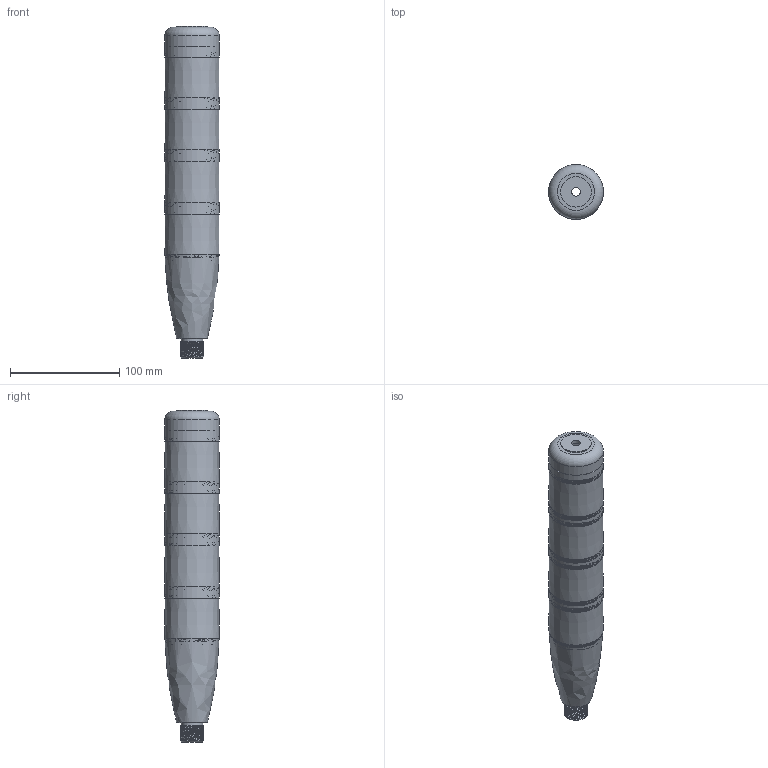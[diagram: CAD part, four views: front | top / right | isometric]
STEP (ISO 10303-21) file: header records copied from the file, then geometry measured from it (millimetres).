
FILE_DESCRIPTION(/* description */ (''),/* implementation_level */ '2;1');
FILE_NAME(/* name */ 'OLE3-401 带蜂鸣.stp',/* time_stamp */ '2022-12-13T18:41:52+08:00',/* author */ (''),/* organization */ (''),/* preprocessor_version */ 'ST-DEVELOPER v16.7',/* originating_system */ 'SIEMENS PLM Software NX 12.0',/* authorisation */ '');
FILE_SCHEMA (('AUTOMOTIVE_DESIGN { 1 0 10303 214 3 1 1 1 }'));
Length unit declared in the file: millimetre
Products named in the file (1): Admi15EC76A1t4w3
Bounding box: 50.3 x 50.3 x 304.5 mm (x, y, z)
Volume: 106542.6 mm3; surface area: 130946.2 mm2
Topology: 10 solids, 12 shells, 1666 faces, 4835 edges, 3221 vertices
Faces by surface type: plane 1035, cylinder 554, bspline 59, cone 16, torus 2
Full cylindrical faces by diameter (mm): 8 x1, 18 x2, 20 x1, 28 x1, 32 x4, 39 x4, 42 x1, 43 x3, 44 x4, 46.3 x6, 47 x1, 48.1 x1, 50 x1, 50.3 x4
Entity records: 81732 total; most frequent: CARTESIAN_POINT 37204, ORIENTED_EDGE 9496, DIRECTION 9293, EDGE_CURVE 4748, VERTEX_POINT 3182, AXIS2_PLACEMENT_3D 3173, LINE 2947, VECTOR 2947
